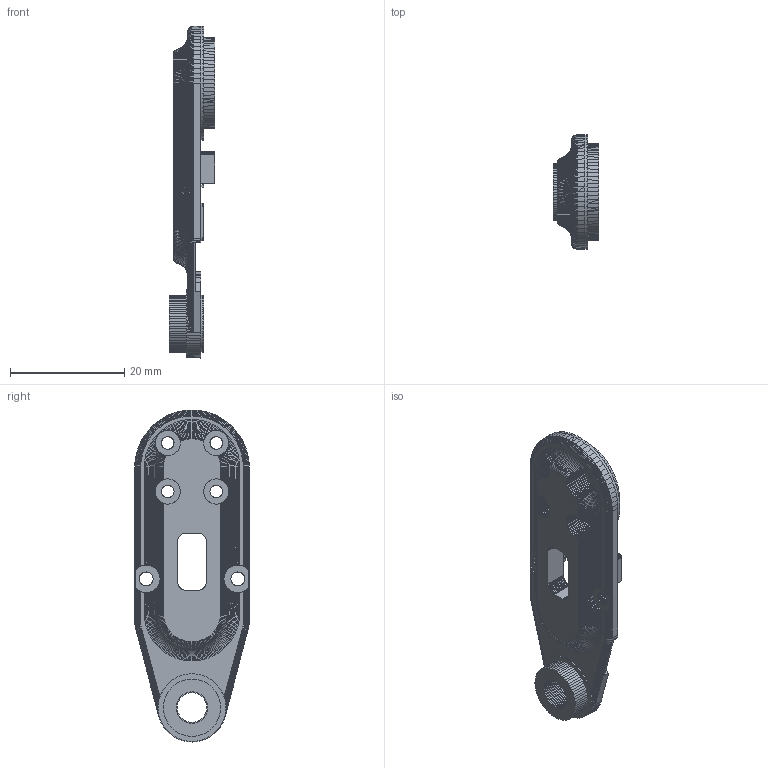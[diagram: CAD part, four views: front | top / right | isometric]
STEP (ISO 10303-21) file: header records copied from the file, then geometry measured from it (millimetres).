
FILE_DESCRIPTION (( 'STEP AP214' ), '1' );
FILE_NAME ('leg_虯窒-FT.STEP', '2026-09-11T23:13:39', ( '' ), ( '' ), 'SwSTEP 2.0', 'SolidWorks 2021', '' );
FILE_SCHEMA (( 'AUTOMOTIVE_DESIGN' ));
Length unit declared in the file: millimetre
Products named in the file (1): leg_虯窒-FT
Bounding box: 7.95 x 20 x 58 mm (x, y, z)
Volume: 3344.4 mm3; surface area: 3164.8 mm2
Topology: 1 solids, 1 shells, 6401 faces, 13316 edges, 6926 vertices
Faces by surface type: plane 6397, cylinder 4
Entity records: 158382 total; most frequent: CARTESIAN_POINT 26674, ORIENTED_EDGE 26632, DIRECTION 26118, EDGE_CURVE 13316, LINE 13298, VECTOR 13298, VERTEX_POINT 6926, EDGE_LOOP 6426
